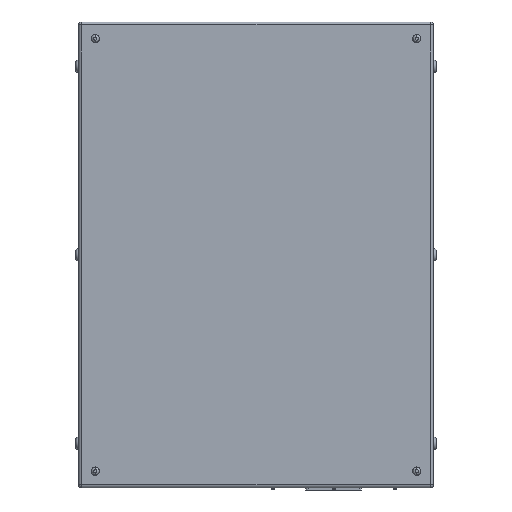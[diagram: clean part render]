
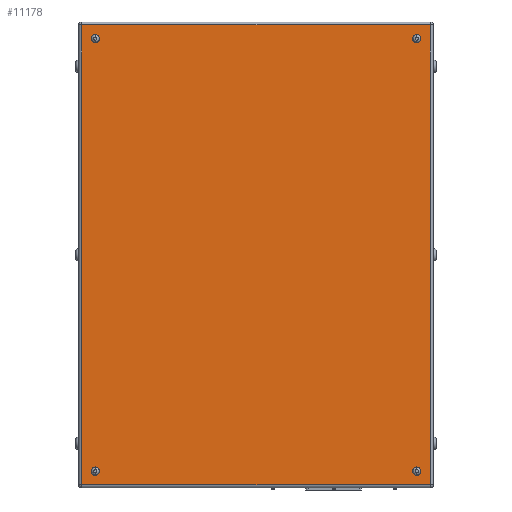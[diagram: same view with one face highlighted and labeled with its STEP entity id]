
A CAD part, front view. The second image highlights one B-rep face of the part: STEP entity #11178.
In plain terms, the highlighted planar face has unit normal (0, -1, 0).
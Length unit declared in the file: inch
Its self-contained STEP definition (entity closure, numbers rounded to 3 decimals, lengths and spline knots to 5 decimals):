
#340 = DIRECTION ( 'NONE',  ( 0., -1., 0. ) ) ;
#656 = VECTOR ( 'NONE', #13995, 39.37008 ) ;
#673 = CARTESIAN_POINT ( 'NONE',  ( -14.5, -8.75, -19.5 ) ) ;
#943 = AXIS2_PLACEMENT_3D ( 'NONE', #13729, #13799, #2075 ) ;
#964 = AXIS2_PLACEMENT_3D ( 'NONE', #1204, #4600, #9233 ) ;
#976 = AXIS2_PLACEMENT_3D ( 'NONE', #3195, #13830, #9137 ) ;
#1116 = DIRECTION ( 'NONE',  ( 0., -1., 0. ) ) ;
#1204 = CARTESIAN_POINT ( 'NONE',  ( 14.5, -8.75, 19.5 ) ) ;
#1264 = VERTEX_POINT ( 'NONE', #10236 ) ;
#1373 = ORIENTED_EDGE ( 'NONE', *, *, #12562, .F. ) ;
#1400 = ORIENTED_EDGE ( 'NONE', *, *, #3531, .F. ) ;
#1491 = EDGE_CURVE ( 'NONE', #13252, #12558, #5166, .T. ) ;
#1929 = EDGE_CURVE ( 'NONE', #3582, #1264, #8634, .T. ) ;
#2007 = FACE_BOUND ( 'NONE', #3629, .T. ) ;
#2075 = DIRECTION ( 'NONE',  ( 0., 0., -1. ) ) ;
#2099 = CARTESIAN_POINT ( 'NONE',  ( -15.734, -8.75, 20.734 ) ) ;
#2240 = CIRCLE ( 'NONE', #11612, 0.37402 ) ;
#2370 = EDGE_LOOP ( 'NONE', ( #3389, #10504, #8247, #12046 ) ) ;
#2823 = EDGE_CURVE ( 'NONE', #12628, #8830, #15062, .T. ) ;
#3190 = LINE ( 'NONE', #2099, #8557 ) ;
#3195 = CARTESIAN_POINT ( 'NONE',  ( 14.5, -8.75, 19.5 ) ) ;
#3253 = DIRECTION ( 'NONE',  ( 0., -1., 0. ) ) ;
#3287 = CARTESIAN_POINT ( 'NONE',  ( 14.5, -8.75, 19.87402 ) ) ;
#3337 = DIRECTION ( 'NONE',  ( 0., 0., -1. ) ) ;
#3389 = ORIENTED_EDGE ( 'NONE', *, *, #14282, .T. ) ;
#3444 = LINE ( 'NONE', #15235, #656 ) ;
#3531 = EDGE_CURVE ( 'NONE', #12558, #13252, #2240, .T. ) ;
#3561 = CARTESIAN_POINT ( 'NONE',  ( 15.734, -8.75, 20.734 ) ) ;
#3582 = VERTEX_POINT ( 'NONE', #7717 ) ;
#3629 = EDGE_LOOP ( 'NONE', ( #3678, #8009 ) ) ;
#3653 = CIRCLE ( 'NONE', #976, 0.37402 ) ;
#3678 = ORIENTED_EDGE ( 'NONE', *, *, #1929, .F. ) ;
#3731 = CARTESIAN_POINT ( 'NONE',  ( -14.5, -8.75, 19.12598 ) ) ;
#3913 = CARTESIAN_POINT ( 'NONE',  ( 14.5, -8.75, 19.12598 ) ) ;
#4028 = CARTESIAN_POINT ( 'NONE',  ( -14.5, -8.75, 19.87402 ) ) ;
#4087 = FACE_BOUND ( 'NONE', #5331, .T. ) ;
#4600 = DIRECTION ( 'NONE',  ( 0., -1., 0. ) ) ;
#4620 = CARTESIAN_POINT ( 'NONE',  ( -15.734, -8.75, -20.734 ) ) ;
#4630 = AXIS2_PLACEMENT_3D ( 'NONE', #15111, #3253, #11582 ) ;
#4871 = DIRECTION ( 'NONE',  ( 0., -1., 0. ) ) ;
#5166 = CIRCLE ( 'NONE', #7135, 0.37402 ) ;
#5187 = DIRECTION ( 'NONE',  ( 0., 0., -1. ) ) ;
#5331 = EDGE_LOOP ( 'NONE', ( #1373, #8618 ) ) ;
#5381 = DIRECTION ( 'NONE',  ( 0., -1., 0. ) ) ;
#5580 = ORIENTED_EDGE ( 'NONE', *, *, #1491, .F. ) ;
#5600 = VERTEX_POINT ( 'NONE', #12640 ) ;
#5683 = EDGE_CURVE ( 'NONE', #8573, #5727, #10421, .T. ) ;
#5709 = CARTESIAN_POINT ( 'NONE',  ( -14.5, -8.75, -19.87402 ) ) ;
#5727 = VERTEX_POINT ( 'NONE', #9863 ) ;
#5817 = VERTEX_POINT ( 'NONE', #3913 ) ;
#5873 = CARTESIAN_POINT ( 'NONE',  ( 14.5, -8.75, -19.5 ) ) ;
#6116 = CIRCLE ( 'NONE', #4630, 0.37402 ) ;
#6320 = EDGE_LOOP ( 'NONE', ( #5580, #1400 ) ) ;
#6649 = FACE_BOUND ( 'NONE', #6320, .T. ) ;
#6701 = VECTOR ( 'NONE', #7012, 39.37008 ) ;
#6785 = DIRECTION ( 'NONE',  ( 0., 0., -1. ) ) ;
#6982 = EDGE_CURVE ( 'NONE', #8830, #12628, #13972, .T. ) ;
#7012 = DIRECTION ( 'NONE',  ( 0., 0., -1. ) ) ;
#7092 = AXIS2_PLACEMENT_3D ( 'NONE', #8429, #4871, #13113 ) ;
#7135 = AXIS2_PLACEMENT_3D ( 'NONE', #673, #5381, #7455 ) ;
#7156 = AXIS2_PLACEMENT_3D ( 'NONE', #5873, #14946, #6785 ) ;
#7219 = EDGE_CURVE ( 'NONE', #1264, #3582, #6116, .T. ) ;
#7455 = DIRECTION ( 'NONE',  ( 0., 0., -1. ) ) ;
#7599 = CIRCLE ( 'NONE', #964, 0.37402 ) ;
#7701 = VERTEX_POINT ( 'NONE', #3561 ) ;
#7717 = CARTESIAN_POINT ( 'NONE',  ( 14.5, -8.75, -19.12598 ) ) ;
#7903 = DIRECTION ( 'NONE',  ( -1., 0., 0. ) ) ;
#8009 = ORIENTED_EDGE ( 'NONE', *, *, #7219, .F. ) ;
#8247 = ORIENTED_EDGE ( 'NONE', *, *, #5683, .T. ) ;
#8429 = CARTESIAN_POINT ( 'NONE',  ( -14.5, -8.75, 19.5 ) ) ;
#8438 = ORIENTED_EDGE ( 'NONE', *, *, #6982, .F. ) ;
#8557 = VECTOR ( 'NONE', #7903, 39.37008 ) ;
#8562 = CARTESIAN_POINT ( 'NONE',  ( -14.5, -8.75, -19.12598 ) ) ;
#8573 = VERTEX_POINT ( 'NONE', #14609 ) ;
#8618 = ORIENTED_EDGE ( 'NONE', *, *, #12875, .F. ) ;
#8634 = CIRCLE ( 'NONE', #7156, 0.37402 ) ;
#8642 = CARTESIAN_POINT ( 'NONE',  ( -14.5, -8.75, 19.5 ) ) ;
#8830 = VERTEX_POINT ( 'NONE', #4028 ) ;
#9037 = PLANE ( 'NONE',  #943 ) ;
#9137 = DIRECTION ( 'NONE',  ( 0., 0., -1. ) ) ;
#9233 = DIRECTION ( 'NONE',  ( 0., 0., -1. ) ) ;
#9269 = VECTOR ( 'NONE', #11643, 39.37008 ) ;
#9863 = CARTESIAN_POINT ( 'NONE',  ( -15.734, -8.75, -20.734 ) ) ;
#10236 = CARTESIAN_POINT ( 'NONE',  ( 14.5, -8.75, -19.87402 ) ) ;
#10421 = LINE ( 'NONE', #4620, #6701 ) ;
#10504 = ORIENTED_EDGE ( 'NONE', *, *, #12068, .T. ) ;
#10616 = ORIENTED_EDGE ( 'NONE', *, *, #2823, .F. ) ;
#11178 = ADVANCED_FACE ( 'NONE', ( #4087, #2007, #11501, #6649, #14804 ), #9037, .T. ) ;
#11501 = FACE_BOUND ( 'NONE', #11607, .T. ) ;
#11582 = DIRECTION ( 'NONE',  ( 0., 0., -1. ) ) ;
#11607 = EDGE_LOOP ( 'NONE', ( #8438, #10616 ) ) ;
#11612 = AXIS2_PLACEMENT_3D ( 'NONE', #14048, #1116, #3337 ) ;
#11643 = DIRECTION ( 'NONE',  ( 1., 0., 0. ) ) ;
#12046 = ORIENTED_EDGE ( 'NONE', *, *, #14298, .T. ) ;
#12068 = EDGE_CURVE ( 'NONE', #7701, #8573, #3190, .T. ) ;
#12558 = VERTEX_POINT ( 'NONE', #5709 ) ;
#12562 = EDGE_CURVE ( 'NONE', #12574, #5817, #7599, .T. ) ;
#12574 = VERTEX_POINT ( 'NONE', #3287 ) ;
#12628 = VERTEX_POINT ( 'NONE', #3731 ) ;
#12640 = CARTESIAN_POINT ( 'NONE',  ( 15.734, -8.75, -20.734 ) ) ;
#12875 = EDGE_CURVE ( 'NONE', #5817, #12574, #3653, .T. ) ;
#13113 = DIRECTION ( 'NONE',  ( 0., 0., -1. ) ) ;
#13252 = VERTEX_POINT ( 'NONE', #8562 ) ;
#13729 = CARTESIAN_POINT ( 'NONE',  ( 0., -8.75, 0. ) ) ;
#13781 = CARTESIAN_POINT ( 'NONE',  ( 15.734, -8.75, -20.734 ) ) ;
#13799 = DIRECTION ( 'NONE',  ( 0., -1., 0. ) ) ;
#13830 = DIRECTION ( 'NONE',  ( 0., -1., 0. ) ) ;
#13972 = CIRCLE ( 'NONE', #7092, 0.37402 ) ;
#13995 = DIRECTION ( 'NONE',  ( 0., 0., 1. ) ) ;
#14048 = CARTESIAN_POINT ( 'NONE',  ( -14.5, -8.75, -19.5 ) ) ;
#14282 = EDGE_CURVE ( 'NONE', #5600, #7701, #3444, .T. ) ;
#14298 = EDGE_CURVE ( 'NONE', #5727, #5600, #14935, .T. ) ;
#14324 = AXIS2_PLACEMENT_3D ( 'NONE', #8642, #340, #5187 ) ;
#14609 = CARTESIAN_POINT ( 'NONE',  ( -15.734, -8.75, 20.734 ) ) ;
#14804 = FACE_OUTER_BOUND ( 'NONE', #2370, .T. ) ;
#14935 = LINE ( 'NONE', #13781, #9269 ) ;
#14946 = DIRECTION ( 'NONE',  ( 0., -1., 0. ) ) ;
#15062 = CIRCLE ( 'NONE', #14324, 0.37402 ) ;
#15111 = CARTESIAN_POINT ( 'NONE',  ( 14.5, -8.75, -19.5 ) ) ;
#15235 = CARTESIAN_POINT ( 'NONE',  ( 15.734, -8.75, 20.734 ) ) ;
